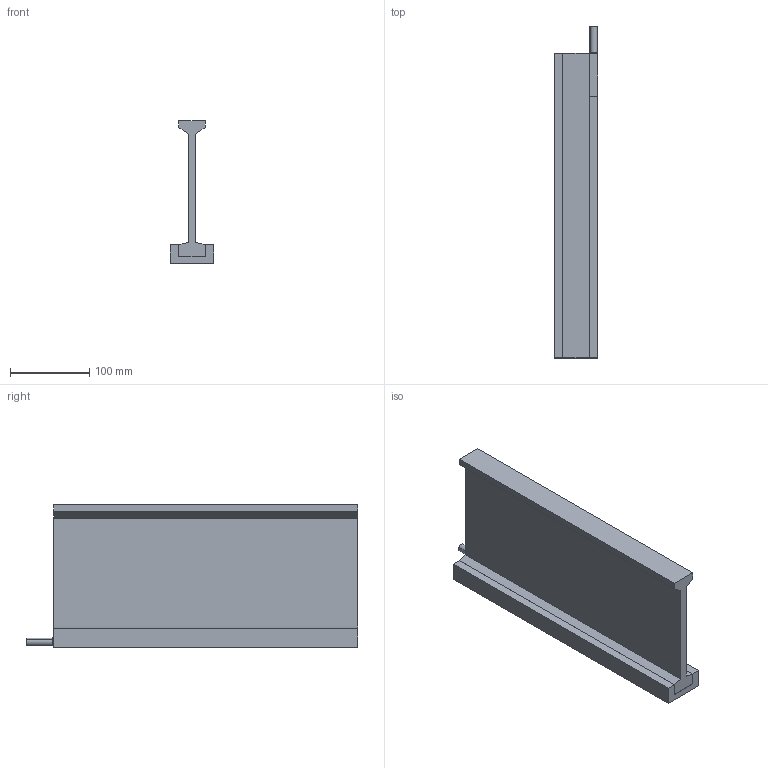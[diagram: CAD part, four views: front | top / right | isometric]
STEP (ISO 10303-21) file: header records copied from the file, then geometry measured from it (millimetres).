
FILE_DESCRIPTION (( 'STEP AP214' ), '1' );
FILE_NAME ('DX140F-C6-NH.STEP', '2021-07-16T04:15:15', ( '' ), ( '' ), 'SwSTEP 2.0', 'SolidWorks 2020', '' );
FILE_SCHEMA (( 'AUTOMOTIVE_DESIGN' ));
Length unit declared in the file: millimetre
Products named in the file (6): CBL_PWR_D10; DX140FNH01; HEX SHCS M3x0.5x12(S.S)_B18.3.1M - 3 x 0.5 x 12 Hex SHCS -- 12CHX; DX140FCX01_C6 (CUSTOMER); TIM-PC 8850FT-LV (DX140F)_C6; DX140F-C6-NH
Assembly tree (6 placements, depth 2):
  DX140F-C6-NH
    TIM-PC 8850FT-LV (DX140F)_C6
    DX140FCX01_C6 (CUSTOMER)
    DX140FNH01
    HEX SHCS M3x0.5x12(S.S)_B18.3.1M - 3 x 0.5 x 12 Hex SHCS -- 12CHX  x2
    CBL_PWR_D10
Bounding box: 55 x 420 x 180.6 mm (x, y, z)
Volume: 1195769.8 mm3; surface area: 257602.4 mm2
Topology: 6 solids, 6 shells, 194 faces, 457 edges, 260 vertices
Faces by surface type: plane 76, cylinder 62, cone 50, torus 6
Entity records: 4899 total; most frequent: DIRECTION 843, CARTESIAN_POINT 762, ORIENTED_EDGE 718, EDGE_CURVE 359, AXIS2_PLACEMENT_3D 308, LINE 227, VERTEX_POINT 227, VECTOR 227
